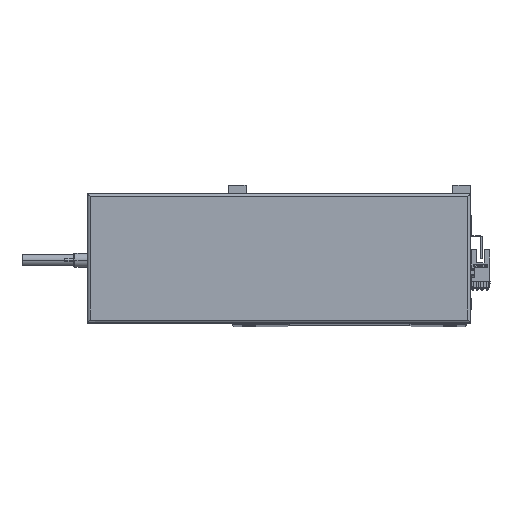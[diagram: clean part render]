
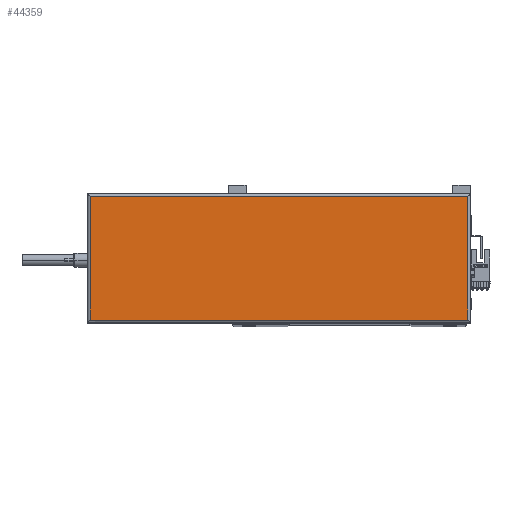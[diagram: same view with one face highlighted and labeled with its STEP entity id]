
A CAD part, top view. The second image highlights one B-rep face of the part: STEP entity #44359.
In plain terms, the highlighted planar face has unit normal (0, 0, 1).
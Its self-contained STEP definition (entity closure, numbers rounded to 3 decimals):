
#3442 = CARTESIAN_POINT ( 'NONE',  ( 265., 88., 44.8 ) ) ;
#3611 = LINE ( 'NONE', #49356, #49823 ) ;
#3722 = VECTOR ( 'NONE', #45093, 1000. ) ;
#3945 = DIRECTION ( 'NONE',  ( 0., 1., 0. ) ) ;
#5227 = VECTOR ( 'NONE', #3945, 1000. ) ;
#5581 = FACE_OUTER_BOUND ( 'NONE', #13976, .T. ) ;
#6677 = DIRECTION ( 'NONE',  ( -1., 0., 0. ) ) ;
#8490 = CARTESIAN_POINT ( 'NONE',  ( 2., 0., 44.8 ) ) ;
#8590 = CARTESIAN_POINT ( 'NONE',  ( 133.5, 45., 44.8 ) ) ;
#9709 = ORIENTED_EDGE ( 'NONE', *, *, #14891, .T. ) ;
#13976 = EDGE_LOOP ( 'NONE', ( #42732, #9709, #16966, #39448 ) ) ;
#14105 = VERTEX_POINT ( 'NONE', #3442 ) ;
#14891 = EDGE_CURVE ( 'NONE', #14105, #29632, #36509, .T. ) ;
#16210 = CARTESIAN_POINT ( 'NONE',  ( 265., 90., 44.8 ) ) ;
#16732 = DIRECTION ( 'NONE',  ( 1., 0., 0. ) ) ;
#16946 = CARTESIAN_POINT ( 'NONE',  ( 265., 2., 44.8 ) ) ;
#16966 = ORIENTED_EDGE ( 'NONE', *, *, #33386, .T. ) ;
#20790 = CARTESIAN_POINT ( 'NONE',  ( 2., 88., 44.8 ) ) ;
#21953 = DIRECTION ( 'NONE',  ( 1., 0., 0. ) ) ;
#22070 = EDGE_CURVE ( 'NONE', #50071, #14105, #46520, .T. ) ;
#29632 = VERTEX_POINT ( 'NONE', #20790 ) ;
#29971 = VERTEX_POINT ( 'NONE', #31320 ) ;
#31320 = CARTESIAN_POINT ( 'NONE',  ( 2., 2., 44.8 ) ) ;
#33386 = EDGE_CURVE ( 'NONE', #29632, #29971, #33906, .T. ) ;
#33906 = LINE ( 'NONE', #8490, #3722 ) ;
#34762 = AXIS2_PLACEMENT_3D ( 'NONE', #8590, #48066, #16732 ) ;
#36509 = LINE ( 'NONE', #42338, #43904 ) ;
#39448 = ORIENTED_EDGE ( 'NONE', *, *, #45868, .T. ) ;
#39933 = PLANE ( 'NONE',  #34762 ) ;
#42338 = CARTESIAN_POINT ( 'NONE',  ( 0., 88., 44.8 ) ) ;
#42732 = ORIENTED_EDGE ( 'NONE', *, *, #22070, .T. ) ;
#43904 = VECTOR ( 'NONE', #6677, 1000. ) ;
#44359 = ADVANCED_FACE ( 'NONE', ( #5581 ), #39933, .T. ) ;
#45093 = DIRECTION ( 'NONE',  ( 0., -1., 0. ) ) ;
#45868 = EDGE_CURVE ( 'NONE', #29971, #50071, #3611, .T. ) ;
#46520 = LINE ( 'NONE', #16210, #5227 ) ;
#48066 = DIRECTION ( 'NONE',  ( 0., 0., 1. ) ) ;
#49356 = CARTESIAN_POINT ( 'NONE',  ( 267., 2., 44.8 ) ) ;
#49823 = VECTOR ( 'NONE', #21953, 1000. ) ;
#50071 = VERTEX_POINT ( 'NONE', #16946 ) ;
